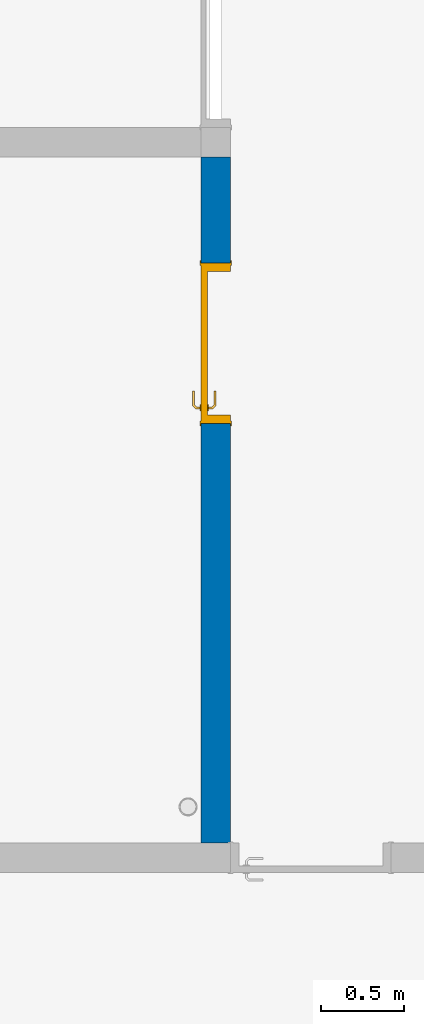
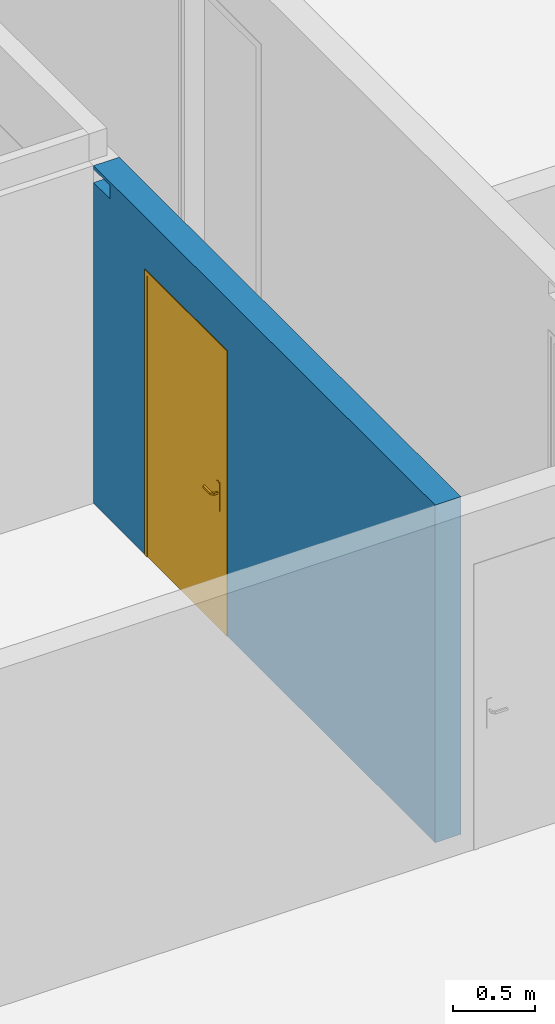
# One storey, part 4 of 24: 1 door, 1 wall, 2 openings.
"""IFC2X3 building model written with IfcOpenShell, lengths in centimetres."""

from ifc_helpers import new_model, entity, si_unit, converted_unit, derived_unit, direction, frame, frame_2d, origin, place, context, subcontext, project, spatial, rectangle, extrude, faceted_brep, source, transform, mapped, material, material_list, layer, layer_set, layer_usage, type_object, type_shapes, element, fill, save


model = new_model("IFC2X3")

# Units and contexts
model_context = context("Model", 3, precision=0.001, world=origin(), true_north=direction((6.12303176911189e-17, 1.0)))
body_context = subcontext(model_context, "Body", "Model", "MODEL_VIEW")
ifc_project = project(units=[si_unit("LENGTHUNIT", "METRE", prefix="CENTI"), si_unit("AREAUNIT", "SQUARE_METRE"), si_unit("VOLUMEUNIT", "CUBIC_METRE"), converted_unit("PLANEANGLEUNIT", "DEGREE", entity("IfcRatioMeasure", 0.0174532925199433), si_unit("PLANEANGLEUNIT", "RADIAN"), dimensions=[0, 0, 0, 0, 0, 0, 0]), si_unit("MASSUNIT", "GRAM", prefix="KILO"), derived_unit("MASSDENSITYUNIT", [(si_unit("MASSUNIT", "GRAM", prefix="KILO"), 1), (si_unit("LENGTHUNIT", "METRE"), -3)]), si_unit("TIMEUNIT", "SECOND"), si_unit("FREQUENCYUNIT", "HERTZ"), si_unit("THERMODYNAMICTEMPERATUREUNIT", "DEGREE_CELSIUS"), derived_unit("THERMALTRANSMITTANCEUNIT", [(si_unit("MASSUNIT", "GRAM", prefix="KILO"), 1), (si_unit("THERMODYNAMICTEMPERATUREUNIT", "KELVIN"), -1), (si_unit("TIMEUNIT", "SECOND"), -3)]), derived_unit("VOLUMETRICFLOWRATEUNIT", [(si_unit("LENGTHUNIT", "METRE"), 3), (si_unit("TIMEUNIT", "SECOND"), -1)]), si_unit("ELECTRICCURRENTUNIT", "AMPERE"), si_unit("ELECTRICVOLTAGEUNIT", "VOLT"), si_unit("POWERUNIT", "WATT"), si_unit("FORCEUNIT", "NEWTON"), si_unit("ILLUMINANCEUNIT", "LUX"), si_unit("LUMINOUSFLUXUNIT", "LUMEN"), si_unit("LUMINOUSINTENSITYUNIT", "CANDELA"), derived_unit("USERDEFINED", [(si_unit("MASSUNIT", "GRAM", prefix="KILO"), -1), (si_unit("LENGTHUNIT", "METRE"), -2), (si_unit("TIMEUNIT", "SECOND"), 3), (si_unit("LUMINOUSFLUXUNIT", "LUMEN"), 1)]), derived_unit("LINEARVELOCITYUNIT", [(si_unit("LENGTHUNIT", "METRE"), 1), (si_unit("TIMEUNIT", "SECOND"), -1)]), si_unit("PRESSUREUNIT", "PASCAL"), derived_unit("USERDEFINED", [(si_unit("LENGTHUNIT", "METRE"), -2), (si_unit("MASSUNIT", "GRAM", prefix="KILO"), 1), (si_unit("TIMEUNIT", "SECOND"), -2)])], contexts=[model_context])

# Site, building, storey
site_placement = place(None, origin())
site = spatial("IfcSite", under=ifc_project, at=site_placement, Name="Default", CompositionType="ELEMENT")
building_placement = place(site_placement, origin())
building = spatial("IfcBuilding", under=site, at=building_placement, Name="CAGE 03", CompositionType="ELEMENT")
storey_placement = place(building_placement, frame((0.0, 0.0, 1150.0)))
storey = spatial("IfcBuildingStorey", under=building, at=storey_placement, Name="R+4", CompositionType="ELEMENT", Elevation=1150.0)

# Wall, openings, door
ifc_material_1 = material(Name="Béton, C25/30")
ifc_layer = layer(ifc_material_1, 18.0)
ifc_layer_set = layer_set([ifc_layer], Name="Mur de base:Voile BA 18")
ifc_layer_usage = layer_usage(ifc_layer_set, "AXIS2", "NEGATIVE", 9.0)
wall_type = type_object("IfcWallType", Name="Mur de base:Voile BA 18", PredefinedType="STANDARD", material=ifc_layer_set)
wall_placement = place(storey_placement, frame((3963.36582014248, 4632.66066607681, 0.0), z_axis=(0.0, 0.0, 1.0), x_axis=(0.0, -1.0, 0.0)))
wall = element("IfcWallStandardCase", 1, at=wall_placement, inside=storey, type_object=wall_type, material=ifc_layer_usage, Name="Mur de base:Voile BA 18", ObjectType="Mur de base:Voile BA 18", context=body_context, shape_type="SweptSolid", body=[
    extrude(rectangle(XDim=414.499999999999, YDim=17.9999999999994, at=frame_2d((207.25, 3.29514193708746e-13), x_axis=(-1.0, 0.0))), origin(), (0.0, 0.0, 1.0), 250.0),
])
opening_1_placement = place(wall_placement, origin())
element("IfcOpeningElement", 2, at=opening_1_placement, cuts=wall, Name="Mur de base:Voile BA 18", ObjectType="Opening", context=body_context, shape_type="SweptSolid", body=[
    extrude(rectangle(XDim=10.0000000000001, YDim=19.9999999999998, at=frame_2d((-1.08357767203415e-13, -4.33431068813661e-13), x_axis=(1.0, 0.0))), frame((10.0, -9.0, 242.500000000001), z_axis=(0.0, 1.0, 0.0), x_axis=(0.0, 0.0, -1.0)), (0.0, 0.0, 1.0), 17.9999999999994),
])
opening_2_placement = place(wall_placement, frame((161.0, 9.0, 0.0)))
opening_2 = element("IfcOpeningElement", 3, at=opening_2_placement, cuts=wall, Name="Int. Simple:HB93:1", ObjectType="Opening", context=body_context, shape_type="SweptSolid", body=[
    extrude(rectangle(XDim=210.000000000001, YDim=96.9999999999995, at=frame_2d((105.000000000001, 48.4999999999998), x_axis=(1.0, 0.0))), frame((0.0, 0.0, 0.0), z_axis=(0.0, -1.0, 0.0), x_axis=(0.0, 0.0, 1.0)), (0.0, 0.0, 1.0), 18.0),
])
ifc_material_2 = material(Name="Finition Peinture - Blanc satiné")
ifc_material_3 = material(Name="Bois - Panneau de porte")
ifc_material_4 = material(Name="Bois - Cadre de porte")
ifc_material_list_1 = material_list([ifc_material_2, ifc_material_3, ifc_material_4])
ifc_material_list_2 = material_list([ifc_material_2, ifc_material_3, ifc_material_4])
door_style = type_object("IfcDoorStyle", Name="HB93", ConstructionType="NOTDEFINED", OperationType="SINGLE_SWING_RIGHT", ParameterTakesPrecedence=False, Sizeable=False, material=ifc_material_list_2)
shared_shape = source(origin(), body_context, "Body", "Brep", [
    faceted_brep([(96.5000000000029, -0.500000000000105, 87.0), (96.5000000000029, -0.500000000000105, 108.0), (95.535276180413, -0.500000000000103, 108.399601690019), (94.5000000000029, -0.500000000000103, 108.535898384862), (93.4647238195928, -0.500000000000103, 108.399601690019), (92.5000000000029, -0.500000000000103, 108.0), (92.5000000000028, -0.500000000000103, 87.0), (93.4647238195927, -0.500000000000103, 86.6003983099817), (94.5000000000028, -0.500000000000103, 86.464101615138), (95.5352761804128, -0.500000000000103, 86.6003983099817), (96.5000000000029, 0.0, 108.0), (96.5000000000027, 0.0, 87.0), (95.5352761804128, 0.0, 86.6003983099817), (94.5000000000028, 0.0, 86.464101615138), (93.4647238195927, 0.0, 86.6003983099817), (92.5000000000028, 0.0, 87.0), (92.5000000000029, 0.0, 108.0), (93.4647238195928, 0.0, 108.399601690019), (94.5000000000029, 0.0, 108.535898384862), (95.535276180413, 0.0, 108.399601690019)], [[[0, 1, 2, 3, 4, 5, 6, 7, 8, 9]], [[10, 11, 12, 13, 14, 15, 16, 17, 18, 19]], [[9, 12, 11, 0]], [[8, 13, 12, 9]], [[7, 14, 13, 8]], [[7, 6, 15, 14]], [[15, 6, 5, 16]], [[4, 17, 16, 5]], [[3, 18, 17, 4]], [[2, 19, 18, 3]], [[2, 1, 10, 19]], [[11, 10, 1, 0]]]),
    faceted_brep([(96.5000000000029, 4.0, 87.0), (96.5000000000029, 4.0, 108.0), (95.535276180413, 4.0, 108.399601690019), (94.5000000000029, 4.0, 108.535898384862), (93.4647238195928, 4.0, 108.399601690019), (92.500000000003, 4.0, 108.0), (92.5000000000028, 4.0, 87.0), (93.4647238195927, 4.0, 86.6003983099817), (94.5000000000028, 4.0, 86.464101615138), (95.5352761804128, 4.0, 86.6003983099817), (94.5000000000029, 4.49999999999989, 108.535898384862), (95.535276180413, 4.49999999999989, 108.399601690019), (96.5000000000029, 4.49999999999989, 108.0), (96.5000000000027, 4.49999999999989, 87.0), (95.5352761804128, 4.49999999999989, 86.6003983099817), (94.5000000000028, 4.49999999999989, 86.464101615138), (93.4647238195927, 4.49999999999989, 86.6003983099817), (92.5000000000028, 4.4999999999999, 87.0), (92.5000000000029, 4.4999999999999, 108.0), (93.4647238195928, 4.49999999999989, 108.399601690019)], [[[0, 1, 2, 3, 4, 5, 6, 7, 8, 9]], [[10, 11, 12, 13, 14, 15, 16, 17, 18, 19]], [[4, 19, 18, 5]], [[3, 10, 19, 4]], [[2, 11, 10, 3]], [[2, 1, 12, 11]], [[13, 12, 1, 0]], [[9, 14, 13, 0]], [[8, 15, 14, 9]], [[7, 16, 15, 8]], [[7, 6, 17, 16]], [[17, 6, 5, 18]]]),
    faceted_brep([(94.2974701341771, -0.500000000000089, 100.778044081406), (94.7025298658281, -0.500000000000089, 100.778044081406), (95.100000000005, -0.500000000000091, 100.699999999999), (95.100000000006, -0.500000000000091, 99.2999999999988), (94.7025298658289, -0.500000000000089, 99.221955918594), (94.297470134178, -0.500000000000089, 99.2219559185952), (93.9000000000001, -0.500000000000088, 99.3000000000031), (93.9000000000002, -0.500000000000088, 100.7), (94.7025298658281, -3.10045754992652, 100.778044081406), (95.1000000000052, -3.26509507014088, 100.7), (94.2974701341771, -2.93267631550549, 100.778044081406), (92.9298602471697, -4.30028620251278, 100.778044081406), (93.0976414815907, -4.70534593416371, 100.778044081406), (93.9000000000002, -2.76803879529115, 100.7), (93.9000000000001, -2.76803879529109, 99.3000000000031), (94.297470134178, -2.93267631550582, 99.2219559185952), (94.7025298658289, -3.10045754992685, 99.221955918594), (93.0976414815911, -4.70534593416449, 99.221955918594), (92.9298602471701, -4.30028620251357, 99.2219559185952), (95.100000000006, -3.26509507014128, 99.2999999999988), (93.2622790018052, -5.1028160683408, 100.7), (92.7652227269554, -3.90281606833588, 100.7), (92.7652227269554, -3.90281606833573, 99.3000000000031), (93.2622790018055, -5.10281606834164, 99.2999999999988), (84.4981359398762, -5.10281606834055, 100.7), (84.4981359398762, -4.70534593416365, 100.778044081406), (84.4981359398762, -4.30028620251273, 100.778044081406), (84.4981359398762, -3.90281606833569, 100.699999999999), (84.4981359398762, -3.90281606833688, 99.3000000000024), (84.4981359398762, -4.30028620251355, 99.2219559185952), (84.4981359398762, -4.70534593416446, 99.221955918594), (84.4981359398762, -5.10281606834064, 99.2999999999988), (88.7139980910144, -4.5028160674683, 100.78786867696), (89.2692302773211, -5.1028160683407, 100.7), (88.6316793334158, -3.90281606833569, 100.7), (88.631679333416, -3.90281606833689, 99.3000000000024), (88.7139981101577, -4.50281607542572, 99.2121313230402), (89.2692310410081, -5.10281606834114, 99.2999999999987)], [[[0, 1, 2, 3, 4, 5, 6, 7]], [[2, 1, 8, 9]], [[1, 0, 10, 11, 12, 8]], [[0, 7, 13, 10]], [[14, 13, 7, 6]], [[5, 15, 14, 6]], [[5, 4, 16, 17, 18, 15]], [[3, 19, 16, 4]], [[9, 19, 3, 2]], [[9, 8, 12, 20]], [[10, 13, 21, 11]], [[22, 21, 13, 14]], [[14, 15, 18, 22]], [[16, 19, 23, 17]], [[20, 23, 19, 9]], [[24, 25, 26, 27, 28, 29, 30, 31]], [[32, 25, 33]], [[33, 25, 24]], [[33, 20, 12]], [[11, 34, 32]], [[34, 11, 21]], [[27, 26, 34]], [[32, 26, 25]], [[32, 34, 26]], [[32, 33, 12]], [[11, 32, 12]], [[21, 22, 35, 28, 27, 34]], [[36, 29, 35]], [[30, 36, 37]], [[18, 35, 22]], [[29, 28, 35]], [[30, 37, 31]], [[37, 17, 23]], [[36, 17, 37]], [[36, 18, 17]], [[36, 35, 18]], [[29, 36, 30]], [[23, 20, 33, 24, 31, 37]]]),
    faceted_brep([(94.2974701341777, 4.49999999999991, 99.2219559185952), (94.7025298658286, 4.49999999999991, 99.221955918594), (95.1000000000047, 4.49999999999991, 99.2999999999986), (95.1000000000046, 4.49999999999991, 100.7), (94.7025298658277, 4.49999999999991, 100.778044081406), (94.2974701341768, 4.49999999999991, 100.778044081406), (93.8999999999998, 4.49999999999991, 100.7), (93.900000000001, 4.49999999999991, 99.3000000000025), (93.8999999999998, 6.7485204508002, 100.7), (93.8999999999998, 6.74852045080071, 99.3000000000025), (94.2974701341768, 6.91315797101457, 100.778044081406), (94.7025298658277, 7.0809392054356, 100.778044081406), (93.0838906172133, 8.69957845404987, 100.778044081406), (92.9161093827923, 8.29451872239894, 100.778044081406), (95.1000000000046, 7.24557672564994, 100.7), (95.1000000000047, 7.24557672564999, 99.2999999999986), (94.7025298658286, 7.08093920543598, 99.221955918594), (94.2974701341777, 6.91315797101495, 99.2219559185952), (92.9161093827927, 8.29451872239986, 99.2219559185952), (93.0838906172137, 8.69957845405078, 99.221955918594), (92.751471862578, 7.89704858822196, 100.7), (92.7514718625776, 7.89704858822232, 99.3000000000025), (93.2485281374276, 9.09704858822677, 100.7), (93.2485281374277, 9.09704858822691, 99.2999999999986), (84.4954216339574, 8.29451872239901, 100.778044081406), (84.4954216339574, 8.69957845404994, 100.778044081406), (84.4954216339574, 9.09704858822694, 100.7), (84.4954216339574, 9.09704858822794, 99.2999999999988), (84.4954216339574, 8.6995784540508, 99.221955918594), (84.4954216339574, 8.29451872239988, 99.2219559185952), (84.4954216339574, 7.89704858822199, 99.3000000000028), (84.4954216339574, 7.89704858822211, 100.7), (88.6234467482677, 7.89704858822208, 100.7), (88.6234479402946, 7.89704858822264, 99.3000000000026), (88.7057655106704, 8.49704858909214, 100.78786867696), (89.255479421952, 9.09704858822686, 100.7), (89.2554795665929, 9.09704858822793, 99.2999999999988), (88.7057654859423, 8.49704858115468, 99.2121313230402)], [[[0, 1, 2, 3, 4, 5, 6, 7]], [[8, 9, 7, 6]], [[5, 10, 8, 6]], [[5, 4, 11, 12, 13, 10]], [[3, 14, 11, 4]], [[14, 3, 2, 15]], [[2, 1, 16, 15]], [[1, 0, 17, 18, 19, 16]], [[0, 7, 9, 17]], [[20, 21, 9, 8]], [[8, 10, 13, 20]], [[14, 22, 12, 11]], [[23, 22, 14, 15]], [[15, 16, 19, 23]], [[17, 9, 21, 18]], [[24, 25, 26, 27, 28, 29, 30, 31]], [[21, 20, 32, 31, 30, 33]], [[34, 24, 32]], [[25, 34, 35]], [[13, 32, 20]], [[24, 31, 32]], [[25, 35, 26]], [[35, 12, 22]], [[34, 12, 35]], [[34, 13, 12]], [[34, 32, 13]], [[24, 34, 25]], [[22, 23, 36, 27, 26, 35]], [[37, 28, 36]], [[36, 28, 27]], [[36, 23, 19]], [[18, 33, 37]], [[33, 18, 21]], [[30, 29, 33]], [[37, 29, 28]], [[37, 33, 29]], [[37, 36, 19]], [[18, 37, 19]]]),
    faceted_brep([(100.500000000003, 4.0, 206.5), (100.500000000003, 4.0, 0.0), (10.5000000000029, 4.0, 0.0), (10.5000000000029, 4.0, 206.5), (100.500000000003, 0.0, 206.5), (10.5000000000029, 0.0, 206.5), (10.5000000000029, 0.0, 0.0), (100.500000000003, 0.0, 0.0)], [[[0, 1, 2, 3]], [[4, 5, 6, 7]], [[3, 5, 4, 0]], [[2, 6, 5, 3]], [[1, 7, 6, 2]], [[0, 4, 7, 1]]]),
    faceted_brep([(104.0, 0.0, 0.0), (100.500000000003, 0.0, 0.0), (100.500000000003, 4.0, 0.0), (99.0, 4.0, 0.0), (99.0, 18.0, 0.0), (104.0, 18.0, 0.0), (104.0, 18.0, 210.0), (104.0, 0.0, 210.0), (99.0, 18.0, 205.0), (12.0, 18.0, 205.0), (12.0, 18.0, 0.0), (7.0, 18.0, 0.0), (7.0, 18.0, 210.0), (99.0, 4.0, 205.0), (100.500000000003, 4.0, 206.5), (10.5000000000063, 4.0, 206.5), (10.5000000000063, 4.0, 0.0), (12.0, 4.0, 0.0), (12.0, 4.0, 205.0), (100.500000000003, 0.0, 206.5), (7.0, 0.0, 210.0), (7.0, 0.0, 0.0), (10.5000000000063, 0.0, 0.0), (10.5000000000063, 0.0, 206.5)], [[[0, 1, 2, 3, 4, 5]], [[5, 6, 7, 0]], [[4, 8, 9, 10, 11, 12, 6, 5]], [[3, 13, 8, 4]], [[2, 14, 15, 16, 17, 18, 13, 3]], [[1, 19, 14, 2]], [[0, 7, 20, 21, 22, 23, 19, 1]], [[12, 11, 21, 20]], [[21, 11, 10, 17, 16, 22]], [[18, 17, 10, 9]], [[23, 22, 16, 15]], [[6, 12, 20, 7]], [[13, 18, 9, 8]], [[19, 23, 15, 14]]]),
    faceted_brep([(102.500000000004, 18.0, 0.0), (102.500000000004, 18.5000000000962, 0.0), (105.500000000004, 18.5000000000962, 0.0), (105.500000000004, 18.0, 0.0), (105.500000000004, 18.0, 211.500000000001), (5.50000000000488, 18.0, 211.500000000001), (5.50000000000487, 18.0, 0.0), (8.50000000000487, 18.0, 0.0), (8.50000000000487, 18.0, 208.500000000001), (102.500000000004, 18.0, 208.500000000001), (105.500000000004, 18.5000000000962, 211.500000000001), (102.500000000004, 18.5000000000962, 208.500000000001), (8.50000000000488, 18.5000000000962, 208.500000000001), (8.50000000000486, 18.5000000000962, 0.0), (5.50000000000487, 18.5000000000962, 0.0), (5.50000000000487, 18.5000000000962, 211.500000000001)], [[[0, 1, 2, 3]], [[3, 4, 5, 6, 7, 8, 9, 0]], [[2, 10, 4, 3]], [[1, 11, 12, 13, 14, 15, 10, 2]], [[0, 9, 11, 1]], [[7, 6, 14, 13]], [[8, 7, 13, 12]], [[15, 14, 6, 5]], [[10, 15, 5, 4]], [[9, 8, 12, 11]]]),
    faceted_brep([(105.500000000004, -0.5, 0.0), (105.500000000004, -0.5, 211.500000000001), (5.50000000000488, -0.5, 211.500000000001), (5.50000000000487, -0.5, 0.0), (8.50000000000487, -0.5, 0.0), (8.50000000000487, -0.5, 208.500000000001), (102.500000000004, -0.5, 208.500000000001), (102.500000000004, -0.5, 0.0), (105.500000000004, 0.0, 0.0), (105.500000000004, 0.0, 211.500000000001), (102.500000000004, 0.0, 0.0), (102.500000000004, 0.0, 208.500000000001), (8.50000000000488, 0.0, 208.500000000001), (8.50000000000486, 0.0, 0.0), (5.50000000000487, 0.0, 0.0), (5.50000000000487, 0.0, 211.500000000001)], [[[0, 1, 2, 3, 4, 5, 6, 7]], [[8, 9, 1, 0]], [[10, 11, 12, 13, 14, 15, 9, 8]], [[7, 6, 11, 10]], [[5, 4, 13, 12]], [[15, 14, 3, 2]], [[9, 15, 2, 1]], [[6, 5, 12, 11]], [[4, 3, 14, 13]], [[7, 10, 8, 0]]]),
])
type_shapes(door_style, [shared_shape])
door_placement = place(opening_2_placement, frame((-104.0, -18.0, 0.0)))
door = element("IfcDoor", 4, at=door_placement, inside=storey, type_object=door_style, material=ifc_material_list_1, Name="Int. Simple:HB93", ObjectType="HB93", OverallHeight=210.000000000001, OverallWidth=96.9999999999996, context=body_context, shape_type="MappedRepresentation", body=[
    mapped(shared_shape, transform((0.0, 0.0, 0.0), scale=1.0)),
])
fill(opening_2, door)

save(model, "model.ifc")
